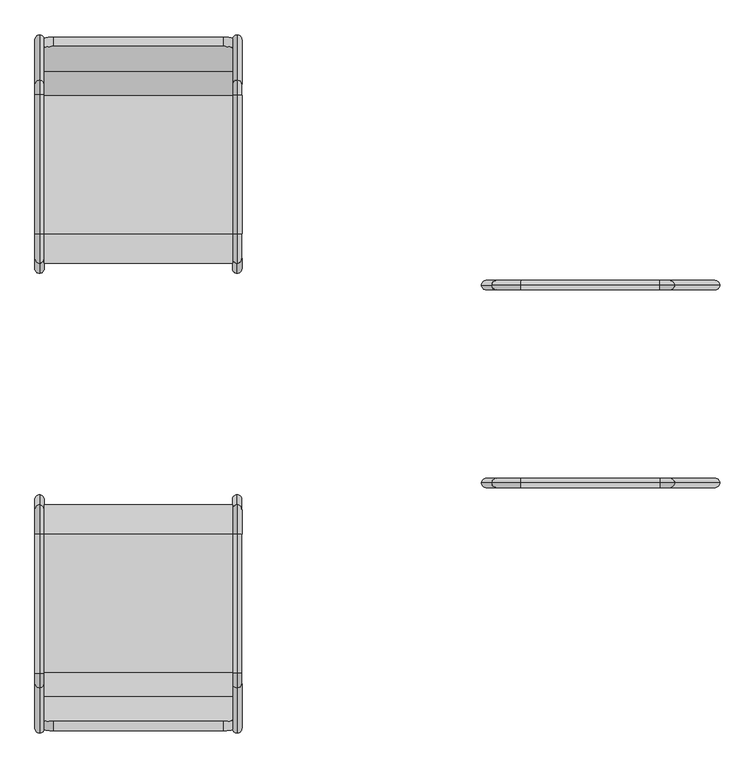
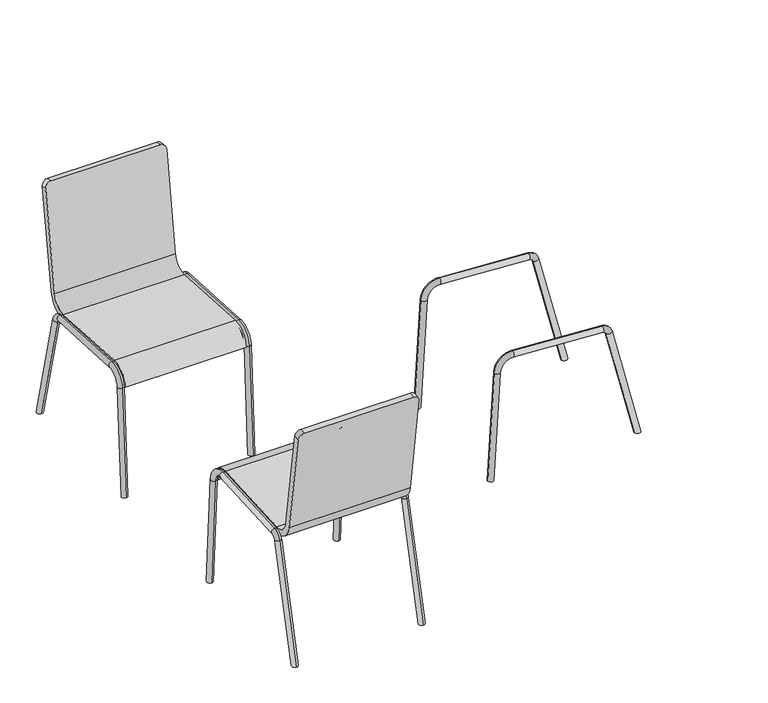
"""IFC4 building model written with IfcOpenShell, lengths in millimetres: furniture geometry, Esstisch mit Stühlen : 140 x 80 x 75 - 4 Stühle."""

from ifc_helpers import new_model, si_unit, point, frame, origin, place, context, project, spatial, polyline, circle_curve, ellipse_curve, trimmed, source, transform, mapped, element, save
from ifc_brep_helpers import plane_surface, cylinder_surface, revolved_surface, advanced_brep


def furniture_fec55555(model_context):
    return source(origin(), model_context, "Body", "AdvancedBrep", [
        advanced_brep(
        [(-473.9849702, -729.6938637, 0.0), (-473.9849702, -750.3061363, 0.0), (-463.9849702, -248.0385228, 0.0), (-473.9849702, -258.0554387, 0.0), (-483.9849702, -248.0385228, 0.0), (-473.9849702, -634.1722272, 383.1163586), (-473.9849702, -653.5781417, 387.9547965), (-473.9849702, -621.6509897, 414.4284246), (-473.9849702, -620.489162, 394.4621992), (-473.9849702, -323.2489468, 431.792335), (-473.9849702, -322.0871192, 411.8261096), (-473.9849702, -259.8647877, 375.3791418), (-473.9849702, -279.8310131, 374.2173141), (-473.9849702, -238.0554101, 0.5809138)],
        [
            (0, 1, ellipse_curve(frame((-473.9849702, -740.0, 0.0), z_axis=(0.0, 0.0, -1.0), x_axis=(0.0, -1.0, 0.0)), 10.3061363, 10.0)),
            (1, 0, ellipse_curve(frame((-473.9849702, -740.0, 0.0), z_axis=(0.0, 0.0, -1.0), x_axis=(0.0, -1.0, 0.0)), 10.3061363, 10.0)),
            (2, 3, ellipse_curve(frame((-473.9849702, -248.0385228, 0.0), z_axis=(0.0, 0.0, -1.0), x_axis=(0.0, -1.0, 0.0)), 10.0169159, 10.0)),
            (3, 4, ellipse_curve(frame((-473.9849702, -248.0385228, 0.0), z_axis=(0.0, 0.0, -1.0), x_axis=(0.0, -1.0, 0.0)), 10.0169159, 10.0)),
            (4, 2),
            (5, 0),
            (1, 6),
            (6, 5, circle_curve(frame((-473.9849702, -643.8751844, 385.5355776), z_axis=(0.0, -0.24192189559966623, -0.9702957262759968), x_axis=(0.0, -0.9702957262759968, 0.24192189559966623)), 10.0)),
            (5, 6, circle_curve(frame((-473.9849702, -643.8751844, 385.5355776), z_axis=(0.0, -0.24192189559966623, -0.9702957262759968), x_axis=(0.0, -0.9702957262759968, 0.24192189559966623)), 10.0)),
            (6, 7, circle_curve(frame((-473.9849702, -619.6177913, 379.4875302), z_axis=(-1.0, 0.0, 0.0), x_axis=(0.0, -0.9702957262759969, 0.2419218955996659)), 35.0)),
            (7, 8, circle_curve(frame((-473.9849702, -621.0700758, 404.4453119), z_axis=(0.0, -0.9983112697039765, -0.05809138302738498), x_axis=(0.0, -0.05809138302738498, 0.9983112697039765)), 10.0)),
            (8, 5, circle_curve(frame((-473.9849702, -619.6177913, 379.4875302), z_axis=(1.0, 0.0, 0.0), x_axis=(0.0, -0.9702957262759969, 0.2419218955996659)), 15.0)),
            (8, 7, circle_curve(frame((-473.9849702, -621.0700758, 404.4453119), z_axis=(0.0, -0.998311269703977, -0.058091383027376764), x_axis=(0.0, -0.058091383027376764, 0.998311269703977)), 10.0)),
            (7, 9),
            (9, 10, circle_curve(frame((-473.9849702, -322.668033, 421.8092223), z_axis=(0.0, -0.9983112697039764, -0.058091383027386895), x_axis=(0.0, -0.058091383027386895, 0.9983112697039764)), 10.0)),
            (10, 8),
            (10, 9, circle_curve(frame((-473.9849702, -322.668033, 421.8092223), z_axis=(0.0, -0.9983112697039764, -0.058091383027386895), x_axis=(0.0, -0.058091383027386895, 0.9983112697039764)), 10.0)),
            (9, 11, circle_curve(frame((-473.9849702, -319.7634639, 371.8936588), z_axis=(-1.0, 0.0, 0.0), x_axis=(0.0, -0.05809138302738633, 0.9983112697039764)), 60.0)),
            (11, 12, circle_curve(frame((-473.9849702, -269.8479004, 374.7982279), z_axis=(0.0, -0.05809138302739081, 0.9983112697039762), x_axis=(0.0, 0.9983112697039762, 0.05809138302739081)), 10.0)),
            (12, 10, circle_curve(frame((-473.9849702, -319.7634639, 371.8936588), z_axis=(1.0, 0.0, 0.0), x_axis=(0.0, -0.05809138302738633, 0.9983112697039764)), 40.0)),
            (12, 11, circle_curve(frame((-473.9849702, -269.8479004, 374.7982279), z_axis=(0.0, -0.058091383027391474, 0.9983112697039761), x_axis=(0.0, 0.9983112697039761, 0.058091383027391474)), 10.0)),
            (4, 13, circle_curve(frame((-473.9849702, -248.0385228, 0.0), z_axis=(0.0, 0.058091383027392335, -0.9983112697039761), x_axis=(0.0, 0.9983112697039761, 0.058091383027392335)), 10.0)),
            (13, 2, circle_curve(frame((-473.9849702, -248.0385228, 0.0), z_axis=(0.0, 0.058091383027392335, -0.9983112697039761), x_axis=(0.0, 0.9983112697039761, 0.058091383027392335)), 10.0)),
            (11, 13),
            (3, 12),
        ],
        [
            plane_surface(frame((-436.564671, -775.4463822, 0.0), z_axis=(0.0, 0.0, -1.0), x_axis=(-1.0, 0.0, 0.0))),
            cylinder_surface(frame((-473.9849702, -742.6101503, -10.4687411), z_axis=(0.0, -0.24192189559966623, -0.9702957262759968), x_axis=(0.0, -0.9702957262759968, 0.24192189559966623)), 10.0),
            revolved_surface(trimmed(ellipse_curve(frame((-473.9849702, -643.8751844, 385.5355776), z_axis=(0.0, 0.2419218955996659, 0.9702957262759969), x_axis=(0.0, -0.9702957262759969, 0.2419218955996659)), 10.0, 10.0), [point((-473.9849702, -634.1722272, 383.1163586))], [point((-473.9849702, -653.5781417, 387.9547965))], True, "CARTESIAN"), (-493.9849702, -619.6177913, 379.4875302), (1.0, 0.0, 0.0)),
            revolved_surface(trimmed(ellipse_curve(frame((-473.9849702, -643.8751844, 385.5355776), z_axis=(0.0, 0.2419218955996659, 0.9702957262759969), x_axis=(0.0, -0.9702957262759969, 0.2419218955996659)), 10.0, 10.0), [point((-473.9849702, -653.5781417, 387.9547965))], [point((-473.9849702, -634.1722272, 383.1163586))], True, "CARTESIAN"), (-493.9849702, -619.6177913, 379.4875302), (1.0, 0.0, 0.0)),
            cylinder_surface(frame((-473.9849702, -621.0700758, 404.4453119), z_axis=(0.0, -0.9983112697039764, -0.058091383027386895), x_axis=(0.0, -0.058091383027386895, 0.9983112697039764)), 10.0),
            revolved_surface(trimmed(ellipse_curve(frame((-473.9849702, -322.668033, 421.8092223), z_axis=(0.0, 0.9983112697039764, 0.05809138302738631), x_axis=(0.0, -0.05809138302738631, 0.9983112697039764)), 10.0, 10.0), [point((-473.9849702, -322.0871192, 411.8261096))], [point((-473.9849702, -323.2489468, 431.792335))], True, "CARTESIAN"), (-493.9849702, -319.7634639, 371.8936588), (1.0, 0.0, 0.0)),
            revolved_surface(trimmed(ellipse_curve(frame((-473.9849702, -322.668033, 421.8092223), z_axis=(0.0, 0.9983112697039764, 0.05809138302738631), x_axis=(0.0, -0.05809138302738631, 0.9983112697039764)), 10.0, 10.0), [point((-473.9849702, -323.2489468, 431.792335))], [point((-473.9849702, -322.0871192, 411.8261096))], True, "CARTESIAN"), (-493.9849702, -319.7634639, 371.8936588), (1.0, 0.0, 0.0)),
            plane_surface(frame((-493.9849702, -248.0385228, 0.0), z_axis=(0.0, 0.058091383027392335, -0.9983112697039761), x_axis=(1.0, 0.0, 0.0))),
            cylinder_surface(frame((-473.9849702, -269.8479004, 374.7982279), z_axis=(0.0, -0.058091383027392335, 0.9983112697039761), x_axis=(0.0, 0.9983112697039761, 0.058091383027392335)), 10.0),
        ],
        [
            (0, [[1, 2]]),
            (0, [[3, 4, 5]]),
            (1, [[6, -2, 7, 8]]),
            (1, [[-7, -1, -6, 9]]),
            (2, [[10, 11, 12, -8]]),
            (3, [[-12, 13, -10, -9]]),
            (4, [[14, 15, 16, -11]]),
            (4, [[-16, 17, -14, -13]]),
            (5, [[18, 19, 20, -15]]),
            (6, [[-20, 21, -18, -17]]),
            (7, [[-5, 22, 23]]),
            (8, [[24, -22, -4, 25, -19]]),
            (8, [[-25, -3, -23, -24, -21]]),
        ],
    ),
        advanced_brep(
        [(-889.1443717, -248.0385228, 0.0), (-909.1443717, -248.0385228, 0.0), (-899.1443717, -238.0554101, 0.5809138), (-899.1443717, -634.1722272, 383.1163586), (-899.1443717, -729.6938637, 0.0), (-899.1443717, -750.3061363, 0.0), (-899.1443717, -653.5781417, 387.9547965), (-899.1443717, -258.0554387, 0.0), (-899.1443717, -621.6509897, 414.4284246), (-899.1443717, -323.2489468, 431.792335), (-899.1443717, -322.0871192, 411.8261096), (-899.1443717, -620.489162, 394.4621992), (-899.1443717, -259.8647877, 375.3791418), (-899.1443717, -279.8310131, 374.2173141)],
        [
            (0, 1),
            (1, 2, circle_curve(frame((-899.1443717, -248.0385228, 0.0), z_axis=(0.0, 0.058091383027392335, -0.9983112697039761), x_axis=(0.0, 0.9983112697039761, 0.058091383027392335)), 10.0)),
            (2, 0, circle_curve(frame((-899.1443717, -248.0385228, 0.0), z_axis=(0.0, 0.058091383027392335, -0.9983112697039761), x_axis=(0.0, 0.9983112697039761, 0.058091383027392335)), 10.0)),
            (3, 4),
            (4, 5, ellipse_curve(frame((-899.1443717, -740.0, 0.0), z_axis=(0.0, 0.0, 1.0), x_axis=(0.0, -1.0, 0.0)), 10.3061363, 10.0)),
            (5, 6),
            (6, 3, circle_curve(frame((-899.1443717, -643.8751844, 385.5355776), z_axis=(0.0, -0.24192189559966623, -0.9702957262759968), x_axis=(0.0, -0.9702957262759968, 0.24192189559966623)), 10.0)),
            (5, 4, ellipse_curve(frame((-899.1443717, -740.0, 0.0), z_axis=(0.0, 0.0, 1.0), x_axis=(0.0, -1.0, 0.0)), 10.3061363, 10.0)),
            (3, 6, circle_curve(frame((-899.1443717, -643.8751844, 385.5355776), z_axis=(0.0, -0.24192189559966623, -0.9702957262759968), x_axis=(0.0, -0.9702957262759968, 0.24192189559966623)), 10.0)),
            (0, 7, ellipse_curve(frame((-899.1443717, -248.0385228, 0.0), z_axis=(0.0, 0.0, -1.0), x_axis=(0.0, -1.0, 0.0)), 10.0169159, 10.0)),
            (7, 1, ellipse_curve(frame((-899.1443717, -248.0385228, 0.0), z_axis=(0.0, 0.0, -1.0), x_axis=(0.0, -1.0, 0.0)), 10.0169159, 10.0)),
            (8, 9),
            (9, 10, circle_curve(frame((-899.1443717, -322.668033, 421.8092223), z_axis=(0.0, -0.9983112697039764, -0.058091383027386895), x_axis=(0.0, -0.058091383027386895, 0.9983112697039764)), 10.0)),
            (10, 11),
            (11, 8, circle_curve(frame((-899.1443717, -621.0700758, 404.4453119), z_axis=(0.0, 0.9983112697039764, 0.058091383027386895), x_axis=(0.0, -0.058091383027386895, 0.9983112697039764)), 10.0)),
            (10, 9, circle_curve(frame((-899.1443717, -322.668033, 421.8092223), z_axis=(0.0, -0.9983112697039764, -0.058091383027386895), x_axis=(0.0, -0.058091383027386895, 0.9983112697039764)), 10.0)),
            (8, 11, circle_curve(frame((-899.1443717, -621.0700758, 404.4453119), z_axis=(0.0, 0.9983112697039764, 0.058091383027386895), x_axis=(0.0, -0.058091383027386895, 0.9983112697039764)), 10.0)),
            (9, 12, circle_curve(frame((-899.1443717, -319.7634639, 371.8936588), z_axis=(-1.0, 0.0, 0.0), x_axis=(0.0, -0.05809138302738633, 0.9983112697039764)), 60.0)),
            (12, 13, circle_curve(frame((-899.1443717, -269.8479004, 374.7982279), z_axis=(0.0, -0.05809138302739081, 0.9983112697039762), x_axis=(0.0, 0.9983112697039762, 0.05809138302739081)), 10.0)),
            (13, 10, circle_curve(frame((-899.1443717, -319.7634639, 371.8936588), z_axis=(1.0, 0.0, 0.0), x_axis=(0.0, -0.05809138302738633, 0.9983112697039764)), 40.0)),
            (13, 12, circle_curve(frame((-899.1443717, -269.8479004, 374.7982279), z_axis=(0.0, -0.058091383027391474, 0.9983112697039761), x_axis=(0.0, 0.9983112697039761, 0.058091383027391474)), 10.0)),
            (12, 2),
            (7, 13),
            (6, 8, circle_curve(frame((-899.1443717, -619.6177913, 379.4875302), z_axis=(-1.0, 0.0, 0.0), x_axis=(0.0, -0.9702957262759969, 0.2419218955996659)), 35.0)),
            (11, 3, circle_curve(frame((-899.1443717, -619.6177913, 379.4875302), z_axis=(1.0, 0.0, 0.0), x_axis=(0.0, -0.9702957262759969, 0.2419218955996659)), 15.0)),
        ],
        [
            plane_surface(frame((-879.1443717, -248.0385228, 0.0), z_axis=(0.0, 0.058091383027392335, -0.9983112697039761), x_axis=(-1.0, 0.0, 0.0))),
            cylinder_surface(frame((-899.1443717, -742.6101503, -10.4687411), z_axis=(0.0, -0.24192189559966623, -0.9702957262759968), x_axis=(0.0, -0.9702957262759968, 0.24192189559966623)), 10.0),
            plane_surface(frame((-436.564671, -775.4463822, 0.0), z_axis=(0.0, 0.0, -1.0), x_axis=(-1.0, 0.0, 0.0))),
            cylinder_surface(frame((-899.1443717, -621.0700758, 404.4453119), z_axis=(0.0, -0.9983112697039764, -0.058091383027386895), x_axis=(0.0, -0.058091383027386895, 0.9983112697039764)), 10.0),
            revolved_surface(trimmed(ellipse_curve(frame((-899.1443717, -322.668033, 421.8092223), z_axis=(0.0, 0.9983112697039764, 0.05809138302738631), x_axis=(0.0, -0.05809138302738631, 0.9983112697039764)), 10.0, 10.0), [point((-899.1443717, -322.0871192, 411.8261096))], [point((-899.1443717, -323.2489468, 431.792335))], True, "CARTESIAN"), (-879.1443717, -319.7634639, 371.8936588), (1.0, 0.0, 0.0)),
            revolved_surface(trimmed(ellipse_curve(frame((-899.1443717, -322.668033, 421.8092223), z_axis=(0.0, 0.9983112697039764, 0.05809138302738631), x_axis=(0.0, -0.05809138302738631, 0.9983112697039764)), 10.0, 10.0), [point((-899.1443717, -323.2489468, 431.792335))], [point((-899.1443717, -322.0871192, 411.8261096))], True, "CARTESIAN"), (-879.1443717, -319.7634639, 371.8936588), (1.0, 0.0, 0.0)),
            cylinder_surface(frame((-899.1443717, -269.8479004, 374.7982279), z_axis=(0.0, -0.058091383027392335, 0.9983112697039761), x_axis=(0.0, 0.9983112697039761, 0.058091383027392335)), 10.0),
            revolved_surface(trimmed(ellipse_curve(frame((-899.1443717, -643.8751844, 385.5355776), z_axis=(0.0, 0.2419218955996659, 0.9702957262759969), x_axis=(0.0, -0.9702957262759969, 0.2419218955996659)), 10.0, 10.0), [point((-899.1443717, -634.1722272, 383.1163586))], [point((-899.1443717, -653.5781417, 387.9547965))], True, "CARTESIAN"), (-879.1443717, -619.6177913, 379.4875302), (1.0, 0.0, 0.0)),
            revolved_surface(trimmed(ellipse_curve(frame((-899.1443717, -643.8751844, 385.5355776), z_axis=(0.0, 0.2419218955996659, 0.9702957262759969), x_axis=(0.0, -0.9702957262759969, 0.2419218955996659)), 10.0, 10.0), [point((-899.1443717, -653.5781417, 387.9547965))], [point((-899.1443717, -634.1722272, 383.1163586))], True, "CARTESIAN"), (-879.1443717, -619.6177913, 379.4875302), (1.0, 0.0, 0.0)),
        ],
        [
            (0, [[1, 2, 3]]),
            (1, [[4, 5, 6, 7]]),
            (1, [[-6, 8, -4, 9]]),
            (2, [[-8, -5]]),
            (2, [[10, 11, -1]]),
            (3, [[12, 13, 14, 15]]),
            (3, [[-14, 16, -12, 17]]),
            (4, [[18, 19, 20, -13]]),
            (5, [[-20, 21, -18, -16]]),
            (6, [[22, -2, -11, 23, -19]]),
            (6, [[-23, -10, -3, -22, -21]]),
            (7, [[24, -15, 25, -7]]),
            (8, [[-25, -17, -24, -9]]),
        ],
    ),
        advanced_brep(
        [(-484.064671, -619.2901891, 414.5657988), (-484.064671, -671.6455514, 457.0908917), (-484.064671, -722.5017557, 797.3777006), (-484.064671, -742.282073, 794.4215124), (-484.064671, -691.4258686, 454.1347035), (-484.064671, -618.1283614, 394.5995734), (-484.064671, -322.0871192, 411.8261096), (-484.064671, -279.8310131, 374.2173141), (-484.064671, -259.8647877, 375.3791418), (-484.064671, -323.2489468, 431.792335), (-889.064671, -619.2901891, 414.5657988), (-889.064671, -323.2489468, 431.792335), (-889.064671, -259.8647877, 375.3791418), (-889.064671, -279.8310131, 374.2173141), (-889.064671, -322.0871192, 411.8261096), (-889.064671, -618.1283614, 394.5995734), (-889.064671, -691.4258686, 454.1347035), (-889.064671, -742.282073, 794.4215124), (-889.064671, -722.5017557, 797.3777006), (-889.064671, -671.6455514, 457.0908917), (-504.064671, -745.2382612, 814.2018297), (-869.064671, -745.2382612, 814.2018297), (-504.064671, -725.4579439, 817.1580179), (-869.064671, -725.4579439, 817.1580179)],
        [
            (0, 1, circle_curve(frame((-484.064671, -622.1947582, 464.4813623), z_axis=(-1.0, 0.0, 0.0), x_axis=(0.0, -1.0, 0.0)), 50.0)),
            (1, 2),
            (2, 3),
            (3, 4),
            (4, 5, circle_curve(frame((-484.064671, -622.1947582, 464.4813623), z_axis=(1.0, 0.0, 0.0), x_axis=(0.0, -1.0, 0.0)), 70.0)),
            (5, 6),
            (6, 7, circle_curve(frame((-484.064671, -319.7634639, 371.8936588), z_axis=(-1.0, 0.0, 0.0), x_axis=(0.0, -1.0, 0.0)), 40.0)),
            (7, 8),
            (8, 9, circle_curve(frame((-484.064671, -319.7634639, 371.8936588), z_axis=(1.0, 0.0, 0.0), x_axis=(0.0, -1.0, 0.0)), 60.0)),
            (9, 0),
            (10, 11),
            (11, 12, circle_curve(frame((-889.064671, -319.7634639, 371.8936588), z_axis=(-1.0, 0.0, 0.0), x_axis=(0.0, -1.0, 0.0)), 60.0)),
            (12, 13),
            (13, 14, circle_curve(frame((-889.064671, -319.7634639, 371.8936588), z_axis=(1.0, 0.0, 0.0), x_axis=(0.0, -1.0, 0.0)), 40.0)),
            (14, 15),
            (15, 16, circle_curve(frame((-889.064671, -622.1947582, 464.4813623), z_axis=(-1.0, 0.0, 0.0), x_axis=(0.0, -1.0, 0.0)), 70.0)),
            (16, 17),
            (17, 18),
            (18, 19),
            (19, 10, circle_curve(frame((-889.064671, -622.1947582, 464.4813623), z_axis=(1.0, 0.0, 0.0), x_axis=(0.0, -1.0, 0.0)), 50.0)),
            (9, 11),
            (10, 0),
            (8, 12),
            (7, 13),
            (6, 14),
            (5, 15),
            (4, 16),
            (3, 20, circle_curve(frame((-504.064671, -742.282073, 794.4215124), z_axis=(0.0, -0.9890158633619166, -0.14780941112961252), x_axis=(-1.0, 0.0, 0.0)), 20.0)),
            (20, 21),
            (21, 17, circle_curve(frame((-869.064671, -742.282073, 794.4215124), z_axis=(0.0, -0.9890158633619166, -0.14780941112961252), x_axis=(1.0, 0.0, 0.0)), 20.0)),
            (20, 22),
            (22, 23),
            (23, 21),
            (18, 23, circle_curve(frame((-869.064671, -722.5017557, 797.3777006), z_axis=(0.0, 0.9890158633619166, 0.14780941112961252), x_axis=(1.0, 0.0, 0.0)), 20.0)),
            (22, 2, circle_curve(frame((-504.064671, -722.5017557, 797.3777006), z_axis=(0.0, 0.9890158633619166, 0.14780941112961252), x_axis=(-1.0, 0.0, 0.0)), 20.0)),
            (1, 19),
        ],
        [
            plane_surface(frame((-484.064671, -325.4940122, 431.6616954), z_axis=(1.0000000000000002, 0.0, 0.0), x_axis=(0.0, 0.9983112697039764, 0.05809138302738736))),
            plane_surface(frame((-889.064671, -325.4940122, 431.6616954), z_axis=(-1.0000000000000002, 0.0, 0.0), x_axis=(0.0, -0.9983112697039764, -0.05809138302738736))),
            plane_surface(frame((-484.064671, -619.2901891, 414.5657988), z_axis=(0.0, -0.05809138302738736, 0.9983112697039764), x_axis=(-1.0, 0.0, 0.0))),
            cylinder_surface(frame((-889.064671, -319.7634639, 371.8936588), z_axis=(1.0, 0.0, 0.0), x_axis=(0.0, -1.0, 0.0)), 60.0),
            plane_surface(frame((-484.064671, -259.8647877, 375.3791418), z_axis=(0.0, 0.058091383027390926, -0.9983112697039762), x_axis=(-1.0, 0.0, 0.0))),
            revolved_surface(polyline([(-889.064671, -359.7634639, 371.8936588), (-484.064671, -359.7634639, 371.8936588)]), (-889.064671, -319.7634639, 371.8936588), (-1.0, 0.0, 0.0)),
            plane_surface(frame((-484.064671, -322.0871192, 411.8261096), z_axis=(0.0, 0.05809138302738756, -0.9983112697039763), x_axis=(-1.0, 0.0, 0.0))),
            cylinder_surface(frame((-889.064671, -622.1947582, 464.4813623), z_axis=(1.0, 0.0, 0.0), x_axis=(0.0, -1.0, 0.0)), 70.0),
            plane_surface(frame((-484.064671, -691.4258686, 454.1347035), z_axis=(0.0, -0.9890158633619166, -0.1478094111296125), x_axis=(-1.0, 0.0, 0.0))),
            plane_surface(frame((-484.064671, -745.2382612, 814.2018297), z_axis=(0.0, -0.14780941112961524, 0.9890158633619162), x_axis=(-1.0, 0.0, 0.0))),
            plane_surface(frame((-484.064671, -725.4579439, 817.1580179), z_axis=(0.0, 0.9890158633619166, 0.14780941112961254), x_axis=(-1.0, 0.0, 0.0))),
            revolved_surface(polyline([(-889.064671, -672.1947582, 464.4813623), (-484.064671, -672.1947582, 464.4813623)]), (-889.064671, -622.1947582, 464.4813623), (-1.0, 0.0, 0.0)),
            cylinder_surface(frame((-869.064671, -722.5017557, 797.3777006), z_axis=(0.0, 0.9890158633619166, 0.14780941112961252), x_axis=(1.0, 0.0, 0.0)), 20.0),
            cylinder_surface(frame((-504.064671, -722.5017557, 797.3777006), z_axis=(0.0, 0.9890158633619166, 0.14780941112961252), x_axis=(-1.0, 0.0, 0.0)), 20.0),
        ],
        [
            (0, [[1, 2, 3, 4, 5, 6, 7, 8, 9, 10]]),
            (1, [[11, 12, 13, 14, 15, 16, 17, 18, 19, 20]]),
            (2, [[21, -11, 22, -10]]),
            (3, [[23, -12, -21, -9]]),
            (4, [[24, -13, -23, -8]]),
            (5, [[25, -14, -24, -7]]),
            (6, [[26, -15, -25, -6]]),
            (7, [[27, -16, -26, -5]]),
            (8, [[-4, 28, 29, 30, -17, -27]]),
            (9, [[31, 32, 33, -29]]),
            (10, [[-19, 34, -32, 35, -2, 36]]),
            (11, [[-22, -20, -36, -1]]),
            (12, [[-30, -33, -34, -18]]),
            (13, [[-35, -31, -28, -3]]),
        ],
    ),
        advanced_brep(
        [(-473.9849702, 729.6938637, 0.0), (-473.9849702, 750.3061363, 0.0), (-463.9849702, 248.0385228, 0.0), (-483.9849702, 248.0385228, 0.0), (-473.9849702, 258.0554387, 0.0), (-473.9849702, 634.1722272, 383.1163586), (-473.9849702, 653.5781417, 387.9547965), (-473.9849702, 620.489162, 394.4621992), (-473.9849702, 621.6509897, 414.4284246), (-473.9849702, 322.0871192, 411.8261096), (-473.9849702, 323.2489468, 431.792335), (-473.9849702, 279.8310131, 374.2173141), (-473.9849702, 259.8647877, 375.3791418), (-473.9849702, 238.0554101, 0.5809138)],
        [
            (0, 1, ellipse_curve(frame((-473.9849702, 740.0, 0.0), z_axis=(0.0, 0.0, -1.0), x_axis=(0.0, 1.0, 0.0)), 10.3061363, 10.0)),
            (1, 0, ellipse_curve(frame((-473.9849702, 740.0, 0.0), z_axis=(0.0, 0.0, -1.0), x_axis=(0.0, 1.0, 0.0)), 10.3061363, 10.0)),
            (2, 3),
            (3, 4, ellipse_curve(frame((-473.9849702, 248.0385228, 0.0), z_axis=(0.0, 0.0, -1.0), x_axis=(0.0, 1.0, 0.0)), 10.0169159, 10.0)),
            (4, 2, ellipse_curve(frame((-473.9849702, 248.0385228, 0.0), z_axis=(0.0, 0.0, -1.0), x_axis=(0.0, 1.0, 0.0)), 10.0169159, 10.0)),
            (5, 6, circle_curve(frame((-473.9849702, 643.8751844, 385.5355776), z_axis=(0.0, 0.24192189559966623, -0.9702957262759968), x_axis=(0.0, 0.9702957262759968, 0.24192189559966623)), 10.0)),
            (6, 1),
            (0, 5),
            (6, 5, circle_curve(frame((-473.9849702, 643.8751844, 385.5355776), z_axis=(0.0, 0.24192189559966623, -0.9702957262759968), x_axis=(0.0, 0.9702957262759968, 0.24192189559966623)), 10.0)),
            (5, 7, circle_curve(frame((-473.9849702, 619.6177913, 379.4875302), z_axis=(1.0, 0.0, 0.0), x_axis=(0.0, 0.9702957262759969, 0.2419218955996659)), 15.0)),
            (7, 8, circle_curve(frame((-473.9849702, 621.0700758, 404.4453119), z_axis=(0.0, 0.998311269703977, -0.058091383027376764), x_axis=(0.0, 0.058091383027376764, 0.998311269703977)), 10.0)),
            (8, 6, circle_curve(frame((-473.9849702, 619.6177913, 379.4875302), z_axis=(-1.0, 0.0, 0.0), x_axis=(0.0, 0.9702957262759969, 0.2419218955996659)), 35.0)),
            (8, 7, circle_curve(frame((-473.9849702, 621.0700758, 404.4453119), z_axis=(0.0, 0.9983112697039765, -0.05809138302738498), x_axis=(0.0, 0.05809138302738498, 0.9983112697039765)), 10.0)),
            (7, 9),
            (9, 10, circle_curve(frame((-473.9849702, 322.668033, 421.8092223), z_axis=(0.0, 0.9983112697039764, -0.058091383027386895), x_axis=(0.0, 0.058091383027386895, 0.9983112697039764)), 10.0)),
            (10, 8),
            (10, 9, circle_curve(frame((-473.9849702, 322.668033, 421.8092223), z_axis=(0.0, 0.9983112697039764, -0.058091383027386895), x_axis=(0.0, 0.058091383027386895, 0.9983112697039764)), 10.0)),
            (9, 11, circle_curve(frame((-473.9849702, 319.7634639, 371.8936588), z_axis=(1.0, 0.0, 0.0), x_axis=(0.0, 0.05809138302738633, 0.9983112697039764)), 40.0)),
            (11, 12, circle_curve(frame((-473.9849702, 269.8479004, 374.7982279), z_axis=(0.0, 0.058091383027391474, 0.9983112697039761), x_axis=(0.0, -0.9983112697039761, 0.058091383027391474)), 10.0)),
            (12, 10, circle_curve(frame((-473.9849702, 319.7634639, 371.8936588), z_axis=(-1.0, 0.0, 0.0), x_axis=(0.0, 0.05809138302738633, 0.9983112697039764)), 60.0)),
            (12, 11, circle_curve(frame((-473.9849702, 269.8479004, 374.7982279), z_axis=(0.0, 0.05809138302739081, 0.9983112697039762), x_axis=(0.0, -0.9983112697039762, 0.05809138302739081)), 10.0)),
            (2, 13, circle_curve(frame((-473.9849702, 248.0385228, 0.0), z_axis=(0.0, -0.058091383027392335, -0.9983112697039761), x_axis=(0.0, -0.9983112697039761, 0.058091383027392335)), 10.0)),
            (13, 3, circle_curve(frame((-473.9849702, 248.0385228, 0.0), z_axis=(0.0, -0.058091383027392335, -0.9983112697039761), x_axis=(0.0, -0.9983112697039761, 0.058091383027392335)), 10.0)),
            (11, 4),
            (13, 12),
        ],
        [
            plane_surface(frame((-436.564671, 775.4463822, 0.0), z_axis=(0.0, 0.0, -1.0), x_axis=(-1.0, 0.0, 0.0))),
            cylinder_surface(frame((-473.9849702, 742.6101503, -10.4687411), z_axis=(0.0, 0.24192189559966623, -0.9702957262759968), x_axis=(0.0, 0.9702957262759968, 0.24192189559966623)), 10.0),
            revolved_surface(trimmed(ellipse_curve(frame((-473.9849702, 643.8751844, 385.5355776), z_axis=(0.0, 0.2419218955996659, -0.9702957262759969), x_axis=(0.0, 0.9702957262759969, 0.2419218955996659)), 10.0, 10.0), [point((-473.9849702, 634.1722272, 383.1163586))], [point((-473.9849702, 653.5781417, 387.9547965))], True, "CARTESIAN"), (-493.9849702, 619.6177913, 379.4875302), (1.0, 0.0, 0.0)),
            revolved_surface(trimmed(ellipse_curve(frame((-473.9849702, 643.8751844, 385.5355776), z_axis=(0.0, 0.2419218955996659, -0.9702957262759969), x_axis=(0.0, 0.9702957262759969, 0.2419218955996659)), 10.0, 10.0), [point((-473.9849702, 653.5781417, 387.9547965))], [point((-473.9849702, 634.1722272, 383.1163586))], True, "CARTESIAN"), (-493.9849702, 619.6177913, 379.4875302), (1.0, 0.0, 0.0)),
            cylinder_surface(frame((-473.9849702, 621.0700758, 404.4453119), z_axis=(0.0, 0.9983112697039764, -0.058091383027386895), x_axis=(0.0, 0.058091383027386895, 0.9983112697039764)), 10.0),
            revolved_surface(trimmed(ellipse_curve(frame((-473.9849702, 322.668033, 421.8092223), z_axis=(0.0, 0.9983112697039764, -0.05809138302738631), x_axis=(0.0, 0.05809138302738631, 0.9983112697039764)), 10.0, 10.0), [point((-473.9849702, 322.0871192, 411.8261096))], [point((-473.9849702, 323.2489468, 431.792335))], True, "CARTESIAN"), (-493.9849702, 319.7634639, 371.8936588), (1.0, 0.0, 0.0)),
            revolved_surface(trimmed(ellipse_curve(frame((-473.9849702, 322.668033, 421.8092223), z_axis=(0.0, 0.9983112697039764, -0.05809138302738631), x_axis=(0.0, 0.05809138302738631, 0.9983112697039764)), 10.0, 10.0), [point((-473.9849702, 323.2489468, 431.792335))], [point((-473.9849702, 322.0871192, 411.8261096))], True, "CARTESIAN"), (-493.9849702, 319.7634639, 371.8936588), (1.0, 0.0, 0.0)),
            plane_surface(frame((-493.9849702, 248.0385228, 0.0), z_axis=(0.0, -0.058091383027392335, -0.9983112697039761), x_axis=(1.0, 0.0, 0.0))),
            cylinder_surface(frame((-473.9849702, 269.8479004, 374.7982279), z_axis=(0.0, 0.058091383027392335, 0.9983112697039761), x_axis=(0.0, -0.9983112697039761, 0.058091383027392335)), 10.0),
        ],
        [
            (0, [[1, 2]]),
            (0, [[3, 4, 5]]),
            (1, [[6, 7, -1, 8]]),
            (1, [[9, -8, -2, -7]]),
            (2, [[-6, 10, 11, 12]]),
            (3, [[-9, -12, 13, -10]]),
            (4, [[-11, 14, 15, 16]]),
            (4, [[-13, -16, 17, -14]]),
            (5, [[-15, 18, 19, 20]]),
            (6, [[-17, -20, 21, -18]]),
            (7, [[22, 23, -3]]),
            (8, [[-19, 24, -4, -23, 25]]),
            (8, [[-21, -25, -22, -5, -24]]),
        ],
    ),
        advanced_brep(
        [(-889.1443717, 248.0385228, 0.0), (-899.1443717, 238.0554101, 0.5809138), (-909.1443717, 248.0385228, 0.0), (-899.1443717, 634.1722272, 383.1163586), (-899.1443717, 653.5781417, 387.9547965), (-899.1443717, 750.3061363, 0.0), (-899.1443717, 729.6938637, 0.0), (-899.1443717, 258.0554387, 0.0), (-899.1443717, 621.6509897, 414.4284246), (-899.1443717, 620.489162, 394.4621992), (-899.1443717, 322.0871192, 411.8261096), (-899.1443717, 323.2489468, 431.792335), (-899.1443717, 279.8310131, 374.2173141), (-899.1443717, 259.8647877, 375.3791418)],
        [
            (0, 1, circle_curve(frame((-899.1443717, 248.0385228, 0.0), z_axis=(0.0, -0.058091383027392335, -0.9983112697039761), x_axis=(0.0, -0.9983112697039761, 0.058091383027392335)), 10.0)),
            (1, 2, circle_curve(frame((-899.1443717, 248.0385228, 0.0), z_axis=(0.0, -0.058091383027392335, -0.9983112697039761), x_axis=(0.0, -0.9983112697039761, 0.058091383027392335)), 10.0)),
            (2, 0),
            (3, 4, circle_curve(frame((-899.1443717, 643.8751844, 385.5355776), z_axis=(0.0, 0.24192189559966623, -0.9702957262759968), x_axis=(0.0, 0.9702957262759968, 0.24192189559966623)), 10.0)),
            (4, 5),
            (5, 6, ellipse_curve(frame((-899.1443717, 740.0, 0.0), z_axis=(0.0, 0.0, 1.0), x_axis=(0.0, 1.0, 0.0)), 10.3061363, 10.0)),
            (6, 3),
            (4, 3, circle_curve(frame((-899.1443717, 643.8751844, 385.5355776), z_axis=(0.0, 0.24192189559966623, -0.9702957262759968), x_axis=(0.0, 0.9702957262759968, 0.24192189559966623)), 10.0)),
            (6, 5, ellipse_curve(frame((-899.1443717, 740.0, 0.0), z_axis=(0.0, 0.0, 1.0), x_axis=(0.0, 1.0, 0.0)), 10.3061363, 10.0)),
            (2, 7, ellipse_curve(frame((-899.1443717, 248.0385228, 0.0), z_axis=(0.0, 0.0, -1.0), x_axis=(0.0, 1.0, 0.0)), 10.0169159, 10.0)),
            (7, 0, ellipse_curve(frame((-899.1443717, 248.0385228, 0.0), z_axis=(0.0, 0.0, -1.0), x_axis=(0.0, 1.0, 0.0)), 10.0169159, 10.0)),
            (8, 9, circle_curve(frame((-899.1443717, 621.0700758, 404.4453119), z_axis=(0.0, -0.9983112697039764, 0.058091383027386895), x_axis=(0.0, 0.058091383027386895, 0.9983112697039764)), 10.0)),
            (9, 10),
            (10, 11, circle_curve(frame((-899.1443717, 322.668033, 421.8092223), z_axis=(0.0, 0.9983112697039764, -0.058091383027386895), x_axis=(0.0, 0.058091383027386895, 0.9983112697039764)), 10.0)),
            (11, 8),
            (9, 8, circle_curve(frame((-899.1443717, 621.0700758, 404.4453119), z_axis=(0.0, -0.9983112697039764, 0.058091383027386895), x_axis=(0.0, 0.058091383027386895, 0.9983112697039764)), 10.0)),
            (11, 10, circle_curve(frame((-899.1443717, 322.668033, 421.8092223), z_axis=(0.0, 0.9983112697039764, -0.058091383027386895), x_axis=(0.0, 0.058091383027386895, 0.9983112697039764)), 10.0)),
            (10, 12, circle_curve(frame((-899.1443717, 319.7634639, 371.8936588), z_axis=(1.0, 0.0, 0.0), x_axis=(0.0, 0.05809138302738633, 0.9983112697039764)), 40.0)),
            (12, 13, circle_curve(frame((-899.1443717, 269.8479004, 374.7982279), z_axis=(0.0, 0.058091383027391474, 0.9983112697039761), x_axis=(0.0, -0.9983112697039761, 0.058091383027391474)), 10.0)),
            (13, 11, circle_curve(frame((-899.1443717, 319.7634639, 371.8936588), z_axis=(-1.0, 0.0, 0.0), x_axis=(0.0, 0.05809138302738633, 0.9983112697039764)), 60.0)),
            (13, 12, circle_curve(frame((-899.1443717, 269.8479004, 374.7982279), z_axis=(0.0, 0.05809138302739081, 0.9983112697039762), x_axis=(0.0, -0.9983112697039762, 0.05809138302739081)), 10.0)),
            (12, 7),
            (1, 13),
            (3, 9, circle_curve(frame((-899.1443717, 619.6177913, 379.4875302), z_axis=(1.0, 0.0, 0.0), x_axis=(0.0, 0.9702957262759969, 0.2419218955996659)), 15.0)),
            (8, 4, circle_curve(frame((-899.1443717, 619.6177913, 379.4875302), z_axis=(-1.0, 0.0, 0.0), x_axis=(0.0, 0.9702957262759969, 0.2419218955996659)), 35.0)),
        ],
        [
            plane_surface(frame((-879.1443717, 248.0385228, 0.0), z_axis=(0.0, -0.058091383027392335, -0.9983112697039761), x_axis=(-1.0, 0.0, 0.0))),
            cylinder_surface(frame((-899.1443717, 742.6101503, -10.4687411), z_axis=(0.0, 0.24192189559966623, -0.9702957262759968), x_axis=(0.0, 0.9702957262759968, 0.24192189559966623)), 10.0),
            plane_surface(frame((-436.564671, 775.4463822, 0.0), z_axis=(0.0, 0.0, -1.0), x_axis=(-1.0, 0.0, 0.0))),
            cylinder_surface(frame((-899.1443717, 621.0700758, 404.4453119), z_axis=(0.0, 0.9983112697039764, -0.058091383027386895), x_axis=(0.0, 0.058091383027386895, 0.9983112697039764)), 10.0),
            revolved_surface(trimmed(ellipse_curve(frame((-899.1443717, 322.668033, 421.8092223), z_axis=(0.0, 0.9983112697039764, -0.05809138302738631), x_axis=(0.0, 0.05809138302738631, 0.9983112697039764)), 10.0, 10.0), [point((-899.1443717, 322.0871192, 411.8261096))], [point((-899.1443717, 323.2489468, 431.792335))], True, "CARTESIAN"), (-879.1443717, 319.7634639, 371.8936588), (1.0, 0.0, 0.0)),
            revolved_surface(trimmed(ellipse_curve(frame((-899.1443717, 322.668033, 421.8092223), z_axis=(0.0, 0.9983112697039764, -0.05809138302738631), x_axis=(0.0, 0.05809138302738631, 0.9983112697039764)), 10.0, 10.0), [point((-899.1443717, 323.2489468, 431.792335))], [point((-899.1443717, 322.0871192, 411.8261096))], True, "CARTESIAN"), (-879.1443717, 319.7634639, 371.8936588), (1.0, 0.0, 0.0)),
            cylinder_surface(frame((-899.1443717, 269.8479004, 374.7982279), z_axis=(0.0, 0.058091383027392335, 0.9983112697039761), x_axis=(0.0, -0.9983112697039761, 0.058091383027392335)), 10.0),
            revolved_surface(trimmed(ellipse_curve(frame((-899.1443717, 643.8751844, 385.5355776), z_axis=(0.0, 0.2419218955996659, -0.9702957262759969), x_axis=(0.0, 0.9702957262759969, 0.2419218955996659)), 10.0, 10.0), [point((-899.1443717, 634.1722272, 383.1163586))], [point((-899.1443717, 653.5781417, 387.9547965))], True, "CARTESIAN"), (-879.1443717, 619.6177913, 379.4875302), (1.0, 0.0, 0.0)),
            revolved_surface(trimmed(ellipse_curve(frame((-899.1443717, 643.8751844, 385.5355776), z_axis=(0.0, 0.2419218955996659, -0.9702957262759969), x_axis=(0.0, 0.9702957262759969, 0.2419218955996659)), 10.0, 10.0), [point((-899.1443717, 653.5781417, 387.9547965))], [point((-899.1443717, 634.1722272, 383.1163586))], True, "CARTESIAN"), (-879.1443717, 619.6177913, 379.4875302), (1.0, 0.0, 0.0)),
        ],
        [
            (0, [[1, 2, 3]]),
            (1, [[4, 5, 6, 7]]),
            (1, [[8, -7, 9, -5]]),
            (2, [[-3, 10, 11]]),
            (2, [[-6, -9]]),
            (3, [[12, 13, 14, 15]]),
            (3, [[16, -15, 17, -13]]),
            (4, [[-14, 18, 19, 20]]),
            (5, [[-17, -20, 21, -18]]),
            (6, [[-19, 22, -10, -2, 23]]),
            (6, [[-21, -23, -1, -11, -22]]),
            (7, [[-4, 24, -12, 25]]),
            (8, [[-8, -25, -16, -24]]),
        ],
    ),
        advanced_brep(
        [(-484.064671, 619.2901891, 414.5657988), (-484.064671, 323.2489468, 431.792335), (-484.064671, 259.8647877, 375.3791418), (-484.064671, 279.8310131, 374.2173141), (-484.064671, 322.0871192, 411.8261096), (-484.064671, 618.1283614, 394.5995734), (-484.064671, 691.4258686, 454.1347035), (-484.064671, 742.282073, 794.4215124), (-484.064671, 722.5017557, 797.3777006), (-484.064671, 671.6455514, 457.0908917), (-889.064671, 619.2901891, 414.5657988), (-889.064671, 671.6455514, 457.0908917), (-889.064671, 722.5017557, 797.3777006), (-889.064671, 742.282073, 794.4215124), (-889.064671, 691.4258686, 454.1347035), (-889.064671, 618.1283614, 394.5995734), (-889.064671, 322.0871192, 411.8261096), (-889.064671, 279.8310131, 374.2173141), (-889.064671, 259.8647877, 375.3791418), (-889.064671, 323.2489468, 431.792335), (-869.064671, 745.2382612, 814.2018297), (-504.064671, 745.2382612, 814.2018297), (-869.064671, 725.4579439, 817.1580179), (-504.064671, 725.4579439, 817.1580179)],
        [
            (0, 1),
            (1, 2, circle_curve(frame((-484.064671, 319.7634639, 371.8936588), z_axis=(1.0, 0.0, 0.0), x_axis=(0.0, 1.0, 0.0)), 60.0)),
            (2, 3),
            (3, 4, circle_curve(frame((-484.064671, 319.7634639, 371.8936588), z_axis=(-1.0, 0.0, 0.0), x_axis=(0.0, 1.0, 0.0)), 40.0)),
            (4, 5),
            (5, 6, circle_curve(frame((-484.064671, 622.1947582, 464.4813623), z_axis=(1.0, 0.0, 0.0), x_axis=(0.0, 1.0, 0.0)), 70.0)),
            (6, 7),
            (7, 8),
            (8, 9),
            (9, 0, circle_curve(frame((-484.064671, 622.1947582, 464.4813623), z_axis=(-1.0, 0.0, 0.0), x_axis=(0.0, 1.0, 0.0)), 50.0)),
            (10, 11, circle_curve(frame((-889.064671, 622.1947582, 464.4813623), z_axis=(1.0, 0.0, 0.0), x_axis=(0.0, 1.0, 0.0)), 50.0)),
            (11, 12),
            (12, 13),
            (13, 14),
            (14, 15, circle_curve(frame((-889.064671, 622.1947582, 464.4813623), z_axis=(-1.0, 0.0, 0.0), x_axis=(0.0, 1.0, 0.0)), 70.0)),
            (15, 16),
            (16, 17, circle_curve(frame((-889.064671, 319.7634639, 371.8936588), z_axis=(1.0, 0.0, 0.0), x_axis=(0.0, 1.0, 0.0)), 40.0)),
            (17, 18),
            (18, 19, circle_curve(frame((-889.064671, 319.7634639, 371.8936588), z_axis=(-1.0, 0.0, 0.0), x_axis=(0.0, 1.0, 0.0)), 60.0)),
            (19, 10),
            (0, 10),
            (19, 1),
            (18, 2),
            (17, 3),
            (16, 4),
            (15, 5),
            (14, 6),
            (13, 20, circle_curve(frame((-869.064671, 742.282073, 794.4215124), z_axis=(0.0, 0.9890158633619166, -0.14780941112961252), x_axis=(1.0, 0.0, 0.0)), 20.0)),
            (20, 21),
            (21, 7, circle_curve(frame((-504.064671, 742.282073, 794.4215124), z_axis=(0.0, 0.9890158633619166, -0.14780941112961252), x_axis=(-1.0, 0.0, 0.0)), 20.0)),
            (20, 22),
            (22, 23),
            (23, 21),
            (11, 9),
            (8, 23, circle_curve(frame((-504.064671, 722.5017557, 797.3777006), z_axis=(0.0, -0.9890158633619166, 0.14780941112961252), x_axis=(-1.0, 0.0, 0.0)), 20.0)),
            (22, 12, circle_curve(frame((-869.064671, 722.5017557, 797.3777006), z_axis=(0.0, -0.9890158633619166, 0.14780941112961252), x_axis=(1.0, 0.0, 0.0)), 20.0)),
        ],
        [
            plane_surface(frame((-484.064671, 325.4940122, 431.6616954), z_axis=(1.0000000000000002, 0.0, 0.0), x_axis=(0.0, -0.9983112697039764, 0.05809138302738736))),
            plane_surface(frame((-889.064671, 325.4940122, 431.6616954), z_axis=(-1.0000000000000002, 0.0, 0.0), x_axis=(0.0, 0.9983112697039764, -0.05809138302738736))),
            plane_surface(frame((-484.064671, 619.2901891, 414.5657988), z_axis=(0.0, 0.05809138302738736, 0.9983112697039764), x_axis=(-1.0, 0.0, 0.0))),
            cylinder_surface(frame((-889.064671, 319.7634639, 371.8936588), z_axis=(1.0, 0.0, 0.0), x_axis=(0.0, 1.0, 0.0)), 60.0),
            plane_surface(frame((-484.064671, 259.8647877, 375.3791418), z_axis=(0.0, -0.058091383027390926, -0.9983112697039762), x_axis=(-1.0, 0.0, 0.0))),
            revolved_surface(polyline([(-889.064671, 359.7634639, 371.8936588), (-484.064671, 359.7634639, 371.8936588)]), (-889.064671, 319.7634639, 371.8936588), (-1.0, 0.0, 0.0)),
            plane_surface(frame((-484.064671, 322.0871192, 411.8261096), z_axis=(0.0, -0.05809138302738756, -0.9983112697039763), x_axis=(-1.0, 0.0, 0.0))),
            cylinder_surface(frame((-889.064671, 622.1947582, 464.4813623), z_axis=(1.0, 0.0, 0.0), x_axis=(0.0, 1.0, 0.0)), 70.0),
            plane_surface(frame((-484.064671, 691.4258686, 454.1347035), z_axis=(0.0, 0.9890158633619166, -0.1478094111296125), x_axis=(-1.0, 0.0, 0.0))),
            plane_surface(frame((-484.064671, 745.2382612, 814.2018297), z_axis=(0.0, 0.14780941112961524, 0.9890158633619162), x_axis=(-1.0, 0.0, 0.0))),
            plane_surface(frame((-484.064671, 725.4579439, 817.1580179), z_axis=(0.0, -0.9890158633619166, 0.14780941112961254), x_axis=(-1.0, 0.0, 0.0))),
            revolved_surface(polyline([(-889.064671, 672.1947582, 464.4813623), (-484.064671, 672.1947582, 464.4813623)]), (-889.064671, 622.1947582, 464.4813623), (-1.0, 0.0, 0.0)),
            cylinder_surface(frame((-869.064671, 722.5017557, 797.3777006), z_axis=(0.0, -0.9890158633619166, 0.14780941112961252), x_axis=(1.0, 0.0, 0.0)), 20.0),
            cylinder_surface(frame((-504.064671, 722.5017557, 797.3777006), z_axis=(0.0, -0.9890158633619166, 0.14780941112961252), x_axis=(-1.0, 0.0, 0.0)), 20.0),
        ],
        [
            (0, [[1, 2, 3, 4, 5, 6, 7, 8, 9, 10]]),
            (1, [[11, 12, 13, 14, 15, 16, 17, 18, 19, 20]]),
            (2, [[-1, 21, -20, 22]]),
            (3, [[-2, -22, -19, 23]]),
            (4, [[-3, -23, -18, 24]]),
            (5, [[-4, -24, -17, 25]]),
            (6, [[-5, -25, -16, 26]]),
            (7, [[-6, -26, -15, 27]]),
            (8, [[-27, -14, 28, 29, 30, -7]]),
            (9, [[-29, 31, 32, 33]]),
            (10, [[34, -9, 35, -32, 36, -12]]),
            (11, [[-10, -34, -11, -21]]),
            (12, [[-13, -36, -31, -28]]),
            (13, [[-8, -30, -33, -35]]),
        ],
    ),
        advanced_brep(
        [(543.1291927, 212.5797007, 0.0), (563.7414653, 212.5797007, 0.0), (61.4738518, 222.5797007, 0.0), (71.4907677, 212.5797007, 0.0), (61.4738518, 202.5797007, 0.0), (447.6075562, 212.5797007, 383.1163586), (467.0134707, 212.5797007, 387.9547965), (435.0863187, 212.5797007, 414.4284246), (433.924491, 212.5797007, 394.4621992), (136.6842759, 212.5797007, 431.792335), (135.5224482, 212.5797007, 411.8261096), (73.3001167, 212.5797007, 375.3791418), (93.2663421, 212.5797007, 374.2173141), (51.4907391, 212.5797007, 0.5809138)],
        [
            (0, 1, ellipse_curve(frame((553.435329, 212.5797007, 0.0), z_axis=(0.0, 0.0, -1.0), x_axis=(1.0, 0.0, 0.0)), 10.3061363, 10.0)),
            (1, 0, ellipse_curve(frame((553.435329, 212.5797007, 0.0), z_axis=(0.0, 0.0, -1.0), x_axis=(1.0, 0.0, 0.0)), 10.3061363, 10.0)),
            (2, 3, ellipse_curve(frame((61.4738518, 212.5797007, 0.0), z_axis=(0.0, 0.0, -1.0), x_axis=(1.0, 0.0, 0.0)), 10.0169159, 10.0)),
            (3, 4, ellipse_curve(frame((61.4738518, 212.5797007, 0.0), z_axis=(0.0, 0.0, -1.0), x_axis=(1.0, 0.0, 0.0)), 10.0169159, 10.0)),
            (4, 2),
            (5, 0),
            (1, 6),
            (6, 5, circle_curve(frame((457.3105135, 212.5797007, 385.5355776), z_axis=(0.24192189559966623, 0.0, -0.9702957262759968), x_axis=(0.9702957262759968, 0.0, 0.24192189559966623)), 10.0)),
            (5, 6, circle_curve(frame((457.3105135, 212.5797007, 385.5355776), z_axis=(0.24192189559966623, 0.0, -0.9702957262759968), x_axis=(0.9702957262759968, 0.0, 0.24192189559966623)), 10.0)),
            (6, 7, circle_curve(frame((433.0531203, 212.5797007, 379.4875302), z_axis=(0.0, -1.0, 0.0), x_axis=(0.9702957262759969, 0.0, 0.2419218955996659)), 35.0)),
            (7, 8, circle_curve(frame((434.5054049, 212.5797007, 404.4453119), z_axis=(0.9983112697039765, 0.0, -0.05809138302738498), x_axis=(0.05809138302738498, 0.0, 0.9983112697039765)), 10.0)),
            (8, 5, circle_curve(frame((433.0531203, 212.5797007, 379.4875302), z_axis=(0.0, 1.0, 0.0), x_axis=(0.9702957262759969, 0.0, 0.2419218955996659)), 15.0)),
            (8, 7, circle_curve(frame((434.5054049, 212.5797007, 404.4453119), z_axis=(0.998311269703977, 0.0, -0.058091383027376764), x_axis=(0.058091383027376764, 0.0, 0.998311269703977)), 10.0)),
            (7, 9),
            (9, 10, circle_curve(frame((136.103362, 212.5797007, 421.8092223), z_axis=(0.9983112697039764, 0.0, -0.058091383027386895), x_axis=(0.058091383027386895, 0.0, 0.9983112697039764)), 10.0)),
            (10, 8),
            (10, 9, circle_curve(frame((136.103362, 212.5797007, 421.8092223), z_axis=(0.9983112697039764, 0.0, -0.058091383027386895), x_axis=(0.058091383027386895, 0.0, 0.9983112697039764)), 10.0)),
            (9, 11, circle_curve(frame((133.1987929, 212.5797007, 371.8936588), z_axis=(0.0, -1.0, 0.0), x_axis=(0.05809138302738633, 0.0, 0.9983112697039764)), 60.0)),
            (11, 12, circle_curve(frame((83.2832294, 212.5797007, 374.7982279), z_axis=(0.05809138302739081, 0.0, 0.9983112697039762), x_axis=(-0.9983112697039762, 0.0, 0.05809138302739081)), 10.0)),
            (12, 10, circle_curve(frame((133.1987929, 212.5797007, 371.8936588), z_axis=(0.0, 1.0, 0.0), x_axis=(0.05809138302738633, 0.0, 0.9983112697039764)), 40.0)),
            (12, 11, circle_curve(frame((83.2832294, 212.5797007, 374.7982279), z_axis=(0.058091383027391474, 0.0, 0.9983112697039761), x_axis=(-0.9983112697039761, 0.0, 0.058091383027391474)), 10.0)),
            (4, 13, circle_curve(frame((61.4738518, 212.5797007, 0.0), z_axis=(-0.058091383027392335, 0.0, -0.9983112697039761), x_axis=(-0.9983112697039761, 0.0, 0.058091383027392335)), 10.0)),
            (13, 2, circle_curve(frame((61.4738518, 212.5797007, 0.0), z_axis=(-0.058091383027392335, 0.0, -0.9983112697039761), x_axis=(-0.9983112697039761, 0.0, 0.058091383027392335)), 10.0)),
            (11, 13),
            (3, 12),
        ],
        [
            plane_surface(frame((588.8817112, 250.0, 0.0), z_axis=(0.0, 0.0, -1.0), x_axis=(0.0, -1.0, 0.0))),
            cylinder_surface(frame((556.0454793, 212.5797007, -10.4687411), z_axis=(0.24192189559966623, 0.0, -0.9702957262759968), x_axis=(0.9702957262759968, 0.0, 0.24192189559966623)), 10.0),
            revolved_surface(trimmed(ellipse_curve(frame((457.3105135, 212.5797007, 385.5355776), z_axis=(-0.2419218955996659, 0.0, 0.9702957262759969), x_axis=(0.9702957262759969, 0.0, 0.2419218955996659)), 10.0, 10.0), [point((447.6075562, 212.5797007, 383.1163586))], [point((467.0134707, 212.5797007, 387.9547965))], True, "CARTESIAN"), (433.0531203, 192.5797007, 379.4875302), (0.0, 1.0, 0.0)),
            revolved_surface(trimmed(ellipse_curve(frame((457.3105135, 212.5797007, 385.5355776), z_axis=(-0.2419218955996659, 0.0, 0.9702957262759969), x_axis=(0.9702957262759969, 0.0, 0.2419218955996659)), 10.0, 10.0), [point((467.0134707, 212.5797007, 387.9547965))], [point((447.6075562, 212.5797007, 383.1163586))], True, "CARTESIAN"), (433.0531203, 192.5797007, 379.4875302), (0.0, 1.0, 0.0)),
            cylinder_surface(frame((434.5054049, 212.5797007, 404.4453119), z_axis=(0.9983112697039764, 0.0, -0.058091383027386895), x_axis=(0.058091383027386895, 0.0, 0.9983112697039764)), 10.0),
            revolved_surface(trimmed(ellipse_curve(frame((136.103362, 212.5797007, 421.8092223), z_axis=(-0.9983112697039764, 0.0, 0.05809138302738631), x_axis=(0.05809138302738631, 0.0, 0.9983112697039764)), 10.0, 10.0), [point((135.5224482, 212.5797007, 411.8261096))], [point((136.6842759, 212.5797007, 431.792335))], True, "CARTESIAN"), (133.1987929, 192.5797007, 371.8936588), (0.0, 1.0, 0.0)),
            revolved_surface(trimmed(ellipse_curve(frame((136.103362, 212.5797007, 421.8092223), z_axis=(-0.9983112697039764, 0.0, 0.05809138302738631), x_axis=(0.05809138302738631, 0.0, 0.9983112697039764)), 10.0, 10.0), [point((136.6842759, 212.5797007, 431.792335))], [point((135.5224482, 212.5797007, 411.8261096))], True, "CARTESIAN"), (133.1987929, 192.5797007, 371.8936588), (0.0, 1.0, 0.0)),
            plane_surface(frame((61.4738518, 192.5797007, 0.0), z_axis=(-0.058091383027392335, 0.0, -0.9983112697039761), x_axis=(0.0, 1.0, 0.0))),
            cylinder_surface(frame((83.2832294, 212.5797007, 374.7982279), z_axis=(0.058091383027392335, 0.0, 0.9983112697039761), x_axis=(-0.9983112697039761, 0.0, 0.058091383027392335)), 10.0),
        ],
        [
            (0, [[1, 2]]),
            (0, [[3, 4, 5]]),
            (1, [[6, -2, 7, 8]]),
            (1, [[-7, -1, -6, 9]]),
            (2, [[10, 11, 12, -8]]),
            (3, [[-12, 13, -10, -9]]),
            (4, [[14, 15, 16, -11]]),
            (4, [[-16, 17, -14, -13]]),
            (5, [[18, 19, 20, -15]]),
            (6, [[-20, 21, -18, -17]]),
            (7, [[-5, 22, 23]]),
            (8, [[24, -22, -4, 25, -19]]),
            (8, [[-25, -3, -23, -24, -21]]),
        ],
    ),
        advanced_brep(
        [(61.4738518, -202.5797007, 0.0), (61.4738518, -222.5797007, 0.0), (51.4907391, -212.5797007, 0.5809138), (447.6075562, -212.5797007, 383.1163586), (543.1291927, -212.5797007, 0.0), (563.7414653, -212.5797007, 0.0), (467.0134707, -212.5797007, 387.9547965), (71.4907677, -212.5797007, 0.0), (435.0863187, -212.5797007, 414.4284246), (136.6842759, -212.5797007, 431.792335), (135.5224482, -212.5797007, 411.8261096), (433.924491, -212.5797007, 394.4621992), (73.3001167, -212.5797007, 375.3791418), (93.2663421, -212.5797007, 374.2173141)],
        [
            (0, 1),
            (1, 2, circle_curve(frame((61.4738518, -212.5797007, 0.0), z_axis=(-0.058091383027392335, 0.0, -0.9983112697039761), x_axis=(-0.9983112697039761, 0.0, 0.058091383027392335)), 10.0)),
            (2, 0, circle_curve(frame((61.4738518, -212.5797007, 0.0), z_axis=(-0.058091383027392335, 0.0, -0.9983112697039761), x_axis=(-0.9983112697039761, 0.0, 0.058091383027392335)), 10.0)),
            (3, 4),
            (4, 5, ellipse_curve(frame((553.435329, -212.5797007, 0.0), z_axis=(0.0, 0.0, 1.0), x_axis=(1.0, 0.0, 0.0)), 10.3061363, 10.0)),
            (5, 6),
            (6, 3, circle_curve(frame((457.3105135, -212.5797007, 385.5355776), z_axis=(0.24192189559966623, 0.0, -0.9702957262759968), x_axis=(0.9702957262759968, 0.0, 0.24192189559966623)), 10.0)),
            (5, 4, ellipse_curve(frame((553.435329, -212.5797007, 0.0), z_axis=(0.0, 0.0, 1.0), x_axis=(1.0, 0.0, 0.0)), 10.3061363, 10.0)),
            (3, 6, circle_curve(frame((457.3105135, -212.5797007, 385.5355776), z_axis=(0.24192189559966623, 0.0, -0.9702957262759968), x_axis=(0.9702957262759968, 0.0, 0.24192189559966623)), 10.0)),
            (0, 7, ellipse_curve(frame((61.4738518, -212.5797007, 0.0), z_axis=(0.0, 0.0, -1.0), x_axis=(1.0, 0.0, 0.0)), 10.0169159, 10.0)),
            (7, 1, ellipse_curve(frame((61.4738518, -212.5797007, 0.0), z_axis=(0.0, 0.0, -1.0), x_axis=(1.0, 0.0, 0.0)), 10.0169159, 10.0)),
            (8, 9),
            (9, 10, circle_curve(frame((136.103362, -212.5797007, 421.8092223), z_axis=(0.9983112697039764, 0.0, -0.058091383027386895), x_axis=(0.058091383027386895, 0.0, 0.9983112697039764)), 10.0)),
            (10, 11),
            (11, 8, circle_curve(frame((434.5054049, -212.5797007, 404.4453119), z_axis=(-0.9983112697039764, 0.0, 0.058091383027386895), x_axis=(0.058091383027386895, 0.0, 0.9983112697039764)), 10.0)),
            (10, 9, circle_curve(frame((136.103362, -212.5797007, 421.8092223), z_axis=(0.9983112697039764, 0.0, -0.058091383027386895), x_axis=(0.058091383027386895, 0.0, 0.9983112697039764)), 10.0)),
            (8, 11, circle_curve(frame((434.5054049, -212.5797007, 404.4453119), z_axis=(-0.9983112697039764, 0.0, 0.058091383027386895), x_axis=(0.058091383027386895, 0.0, 0.9983112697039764)), 10.0)),
            (9, 12, circle_curve(frame((133.1987929, -212.5797007, 371.8936588), z_axis=(0.0, -1.0, 0.0), x_axis=(0.05809138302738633, 0.0, 0.9983112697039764)), 60.0)),
            (12, 13, circle_curve(frame((83.2832294, -212.5797007, 374.7982279), z_axis=(0.05809138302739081, 0.0, 0.9983112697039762), x_axis=(-0.9983112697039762, 0.0, 0.05809138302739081)), 10.0)),
            (13, 10, circle_curve(frame((133.1987929, -212.5797007, 371.8936588), z_axis=(0.0, 1.0, 0.0), x_axis=(0.05809138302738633, 0.0, 0.9983112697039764)), 40.0)),
            (13, 12, circle_curve(frame((83.2832294, -212.5797007, 374.7982279), z_axis=(0.058091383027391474, 0.0, 0.9983112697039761), x_axis=(-0.9983112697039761, 0.0, 0.058091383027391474)), 10.0)),
            (12, 2),
            (7, 13),
            (6, 8, circle_curve(frame((433.0531203, -212.5797007, 379.4875302), z_axis=(0.0, -1.0, 0.0), x_axis=(0.9702957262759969, 0.0, 0.2419218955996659)), 35.0)),
            (11, 3, circle_curve(frame((433.0531203, -212.5797007, 379.4875302), z_axis=(0.0, 1.0, 0.0), x_axis=(0.9702957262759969, 0.0, 0.2419218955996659)), 15.0)),
        ],
        [
            plane_surface(frame((61.4738518, -192.5797007, 0.0), z_axis=(-0.058091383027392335, 0.0, -0.9983112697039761), x_axis=(0.0, -1.0, 0.0))),
            cylinder_surface(frame((556.0454793, -212.5797007, -10.4687411), z_axis=(0.24192189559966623, 0.0, -0.9702957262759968), x_axis=(0.9702957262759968, 0.0, 0.24192189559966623)), 10.0),
            plane_surface(frame((588.8817112, 250.0, 0.0), z_axis=(0.0, 0.0, -1.0), x_axis=(0.0, -1.0, 0.0))),
            cylinder_surface(frame((434.5054049, -212.5797007, 404.4453119), z_axis=(0.9983112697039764, 0.0, -0.058091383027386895), x_axis=(0.058091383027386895, 0.0, 0.9983112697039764)), 10.0),
            revolved_surface(trimmed(ellipse_curve(frame((136.103362, -212.5797007, 421.8092223), z_axis=(-0.9983112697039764, 0.0, 0.05809138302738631), x_axis=(0.05809138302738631, 0.0, 0.9983112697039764)), 10.0, 10.0), [point((135.5224482, -212.5797007, 411.8261096))], [point((136.6842759, -212.5797007, 431.792335))], True, "CARTESIAN"), (133.1987929, -192.5797007, 371.8936588), (0.0, 1.0, 0.0)),
            revolved_surface(trimmed(ellipse_curve(frame((136.103362, -212.5797007, 421.8092223), z_axis=(-0.9983112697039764, 0.0, 0.05809138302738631), x_axis=(0.05809138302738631, 0.0, 0.9983112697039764)), 10.0, 10.0), [point((136.6842759, -212.5797007, 431.792335))], [point((135.5224482, -212.5797007, 411.8261096))], True, "CARTESIAN"), (133.1987929, -192.5797007, 371.8936588), (0.0, 1.0, 0.0)),
            cylinder_surface(frame((83.2832294, -212.5797007, 374.7982279), z_axis=(0.058091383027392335, 0.0, 0.9983112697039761), x_axis=(-0.9983112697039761, 0.0, 0.058091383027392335)), 10.0),
            revolved_surface(trimmed(ellipse_curve(frame((457.3105135, -212.5797007, 385.5355776), z_axis=(-0.2419218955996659, 0.0, 0.9702957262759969), x_axis=(0.9702957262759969, 0.0, 0.2419218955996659)), 10.0, 10.0), [point((447.6075562, -212.5797007, 383.1163586))], [point((467.0134707, -212.5797007, 387.9547965))], True, "CARTESIAN"), (433.0531203, -192.5797007, 379.4875302), (0.0, 1.0, 0.0)),
            revolved_surface(trimmed(ellipse_curve(frame((457.3105135, -212.5797007, 385.5355776), z_axis=(-0.2419218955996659, 0.0, 0.9702957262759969), x_axis=(0.9702957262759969, 0.0, 0.2419218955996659)), 10.0, 10.0), [point((467.0134707, -212.5797007, 387.9547965))], [point((447.6075562, -212.5797007, 383.1163586))], True, "CARTESIAN"), (433.0531203, -192.5797007, 379.4875302), (0.0, 1.0, 0.0)),
        ],
        [
            (0, [[1, 2, 3]]),
            (1, [[4, 5, 6, 7]]),
            (1, [[-6, 8, -4, 9]]),
            (2, [[-8, -5]]),
            (2, [[10, 11, -1]]),
            (3, [[12, 13, 14, 15]]),
            (3, [[-14, 16, -12, 17]]),
            (4, [[18, 19, 20, -13]]),
            (5, [[-20, 21, -18, -16]]),
            (6, [[22, -2, -11, 23, -19]]),
            (6, [[-23, -10, -3, -22, -21]]),
            (7, [[24, -15, 25, -7]]),
            (8, [[-25, -17, -24, -9]]),
        ],
    ),
    ])


if __name__ == "__main__":
    model = new_model("IFC4")
    model_context = context("Model", 3, world=origin())
    ifc_project = project(units=[si_unit("LENGTHUNIT", "METRE", prefix="MILLI")], contexts=[model_context])
    site = spatial("IfcSite", under=ifc_project)
    building = spatial("IfcBuilding", under=site)
    placement = place(None, origin())
    furniture_shape = furniture_fec55555(model_context)
    element("IfcFurniture", 1, ObjectType="Esstisch mit Stühlen : 140 x 80 x 75 - 4 Stühle", at=placement, inside=building, context=model_context, shape_type="MappedRepresentation", body=[
        mapped(furniture_shape, transform((0.0, 0.0, 0.0), x_axis=(1.0, 0.0, 0.0), y_axis=(0.0, 1.0, 0.0), z_axis=(0.0, 0.0, 1.0))),
    ])
    save(model, "model.ifc")
